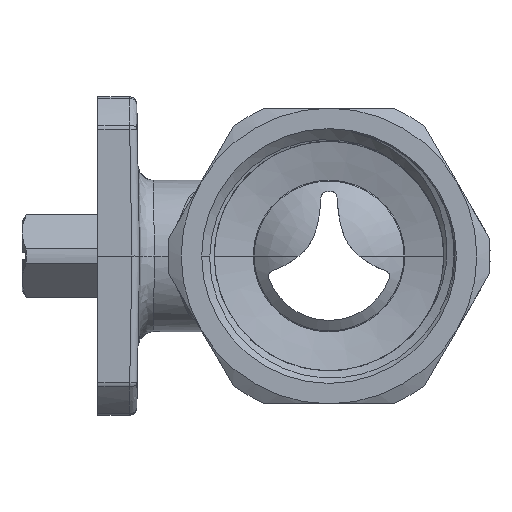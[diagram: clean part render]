
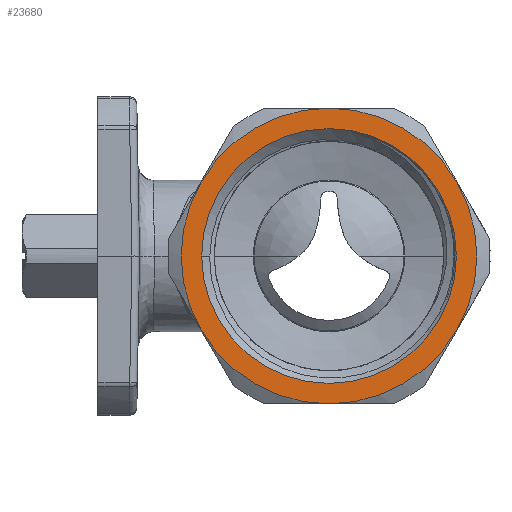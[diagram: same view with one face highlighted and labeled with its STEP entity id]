
A CAD part, left-side view. The second image highlights one B-rep face of the part: STEP entity #23680.
In plain terms, the highlighted planar face has unit normal (-1, 0, 0).
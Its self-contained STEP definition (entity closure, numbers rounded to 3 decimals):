
#804=CARTESIAN_POINT('',(-38.4,16.887,-9.75));
#834=CARTESIAN_POINT('',(-38.4,0.,0.));
#835=DIRECTION('',(1.,0.,0.));
#836=DIRECTION('',(0.,-0.866,-0.5));
#837=AXIS2_PLACEMENT_3D('',#834,#835,#836);
#839=CARTESIAN_POINT('',(-38.4,0.,0.));
#840=DIRECTION('',(1.,0.,0.));
#841=DIRECTION('',(0.,0.,-1.));
#842=AXIS2_PLACEMENT_3D('',#839,#840,#841);
#844=CARTESIAN_POINT('',(-38.4,0.,0.));
#845=DIRECTION('',(-1.,0.,0.));
#846=DIRECTION('',(0.,0.,1.));
#847=AXIS2_PLACEMENT_3D('',#844,#845,#846);
#849=CARTESIAN_POINT('',(-38.4,0.,0.));
#850=DIRECTION('',(-1.,0.,0.));
#851=DIRECTION('',(0.,-0.866,0.5));
#852=AXIS2_PLACEMENT_3D('',#849,#850,#851);
#854=CARTESIAN_POINT('',(-38.4,0.,0.));
#855=DIRECTION('',(-1.,0.,0.));
#856=DIRECTION('',(0.,-0.866,-0.5));
#857=AXIS2_PLACEMENT_3D('',#854,#855,#856);
#886=CARTESIAN_POINT('',(-38.4,-16.887,9.75));
#924=CARTESIAN_POINT('',(-38.4,0.,19.5));
#962=CARTESIAN_POINT('',(-38.4,16.887,9.75));
#973=CARTESIAN_POINT('',(-38.4,0.,0.));
#974=DIRECTION('',(-1.,0.,0.));
#975=DIRECTION('',(0.,0.866,0.5));
#976=AXIS2_PLACEMENT_3D('',#973,#974,#975);
#1276=CARTESIAN_POINT('',(-38.4,-16.887,
-9.75));
#1322=CARTESIAN_POINT('',(-38.4,0.,
-19.5));
#1520=CARTESIAN_POINT('',(-38.4,0.,0.));
#1521=DIRECTION('',(-1.,0.,0.));
#1522=DIRECTION('',(0.,-1.,0.));
#1523=AXIS2_PLACEMENT_3D('',#1520,#1521,#1522);
#1759=CARTESIAN_POINT('',(-38.4,0.,0.));
#1760=DIRECTION('',(1.,0.,0.));
#1761=DIRECTION('',(0.,-1.,0.));
#1762=AXIS2_PLACEMENT_3D('',#1759,#1760,#1761);
#20948=CARTESIAN_POINT('',(-38.4,-16.8,0.));
#20949=CARTESIAN_POINT('',(-38.4,16.8,0.));
#20950=VERTEX_POINT('',#20948);
#20951=VERTEX_POINT('',#20949);
#20957=VERTEX_POINT('',#886);
#20964=VERTEX_POINT('',#924);
#20971=VERTEX_POINT('',#962);
#20974=VERTEX_POINT('',#804);
#20981=VERTEX_POINT('',#1322);
#20988=VERTEX_POINT('',#1276);
#23656=CARTESIAN_POINT('',(-38.4,0.,0.));
#23657=DIRECTION('',(1.,0.,0.));
#23658=DIRECTION('',(0.,-1.,0.));
#23659=AXIS2_PLACEMENT_3D('',#23656,#23657,#23658);
#23660=PLANE('',#23659);
#23662=ORIENTED_EDGE('',*,*,#23661,.F.);
#23664=ORIENTED_EDGE('',*,*,#23663,.T.);
#23665=ORIENTED_EDGE('',*,*,#23643,.T.);
#23667=ORIENTED_EDGE('',*,*,#23666,.F.);
#23669=ORIENTED_EDGE('',*,*,#23668,.F.);
#23671=ORIENTED_EDGE('',*,*,#23670,.F.);
#23672=EDGE_LOOP('',(#23662,#23664,#23665,#23667,#23669,#23671));
#23673=FACE_OUTER_BOUND('',#23672,.F.);
#23675=ORIENTED_EDGE('',*,*,#23674,.T.);
#23677=ORIENTED_EDGE('',*,*,#23676,.F.);
#23678=EDGE_LOOP('',(#23675,#23677));
#23679=FACE_BOUND('',#23678,.F.);
#838=CIRCLE('',#837,19.5);
#843=CIRCLE('',#842,19.5);
#848=CIRCLE('',#847,19.5);
#853=CIRCLE('',#852,19.5);
#858=CIRCLE('',#857,19.5);
#977=CIRCLE('',#976,19.5);
#1524=CIRCLE('',#1523,16.8);
#1763=CIRCLE('',#1762,16.8);
#23643=EDGE_CURVE('',#20981,#20974,#843,.T.);
#23661=EDGE_CURVE('',#20988,#20957,#858,.T.);
#23663=EDGE_CURVE('',#20988,#20981,#838,.T.);
#23666=EDGE_CURVE('',#20971,#20974,#977,.T.);
#23668=EDGE_CURVE('',#20964,#20971,#848,.T.);
#23670=EDGE_CURVE('',#20957,#20964,#853,.T.);
#23674=EDGE_CURVE('',#20950,#20951,#1524,.T.);
#23676=EDGE_CURVE('',#20950,#20951,#1763,.T.);
#23680=ADVANCED_FACE('',(#23673,#23679),#23660,.F.);
